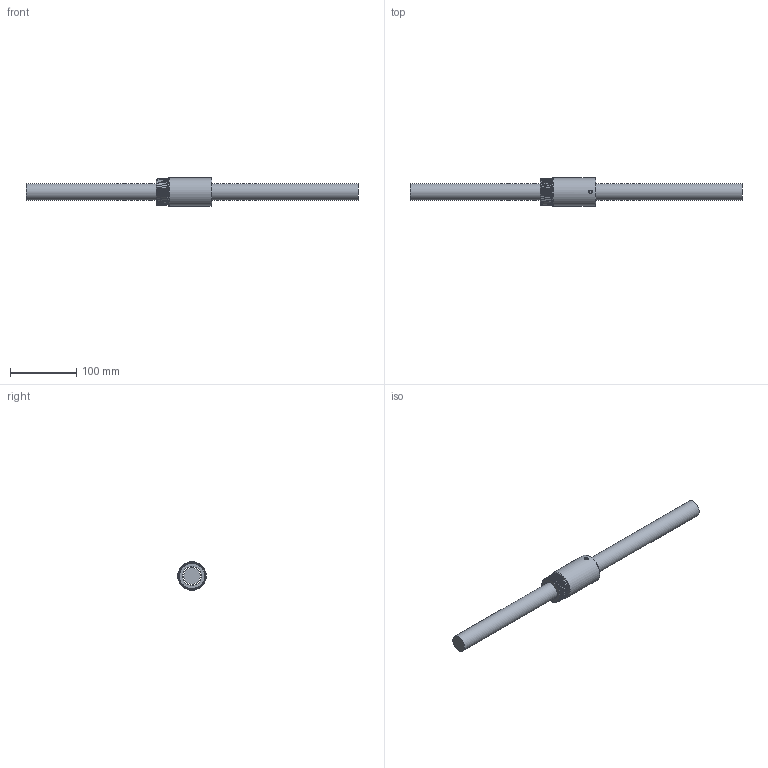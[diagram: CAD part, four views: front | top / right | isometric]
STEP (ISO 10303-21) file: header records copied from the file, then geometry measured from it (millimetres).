
FILE_DESCRIPTION (( 'STEP AP203' ), '1' );
FILE_NAME ('BSHR02510-4.step', '2024-05-31T07:17:11', ( '' ), ( '' ), 'SwSTEP 2.0', 'SolidWorks 2022', '' );
FILE_SCHEMA (( 'CONFIG_CONTROL_DESIGN' ));
Length unit declared in the file: millimetre
Products named in the file (1): BSHR02510-4
Bounding box: 500 x 43 x 43 mm (x, y, z)
Volume: 309585.1 mm3; surface area: 61995.7 mm2
Topology: 2 solids, 2 shells, 24 faces, 54 edges, 36 vertices
Faces by surface type: plane 7, cylinder 7, bspline 7, torus 2, cone 1
Full cylindrical faces by diameter (mm): 6 x1, 25 x1, 28.2 x1, 37.5 x1, 43 x1
Entity records: 4690 total; most frequent: CARTESIAN_POINT 4210, ORIENTED_EDGE 80, DIRECTION 64, EDGE_CURVE 40, EDGE_LOOP 39, AXIS2_PLACEMENT_3D 32, FACE_OUTER_BOUND 31, VERTEX_POINT 31
